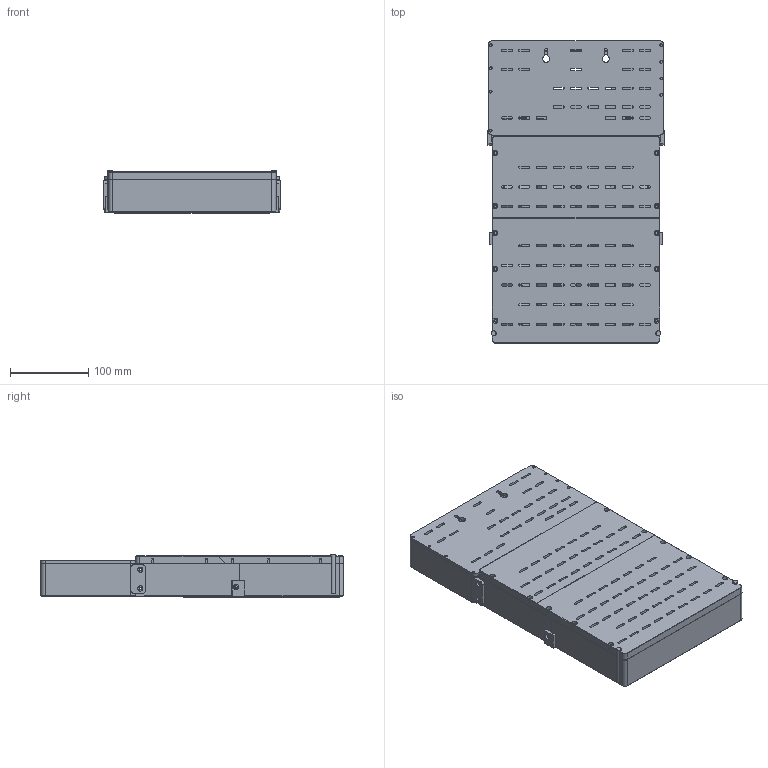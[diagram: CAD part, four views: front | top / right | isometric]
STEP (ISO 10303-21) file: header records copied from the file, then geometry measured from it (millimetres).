
FILE_DESCRIPTION(('Open CASCADE Model'),'2;1');
FILE_NAME('Open CASCADE Shape Model','2026-11-12T22:35:30',('Author'),( 'Open CASCADE'),'Open CASCADE STEP processor 7.9','Open CASCADE 7.9' ,'Unknown');
FILE_SCHEMA(('AUTOMOTIVE_DESIGN { 1 0 10303 214 1 1 1 1 }'));
Length unit declared in the file: millimetre
Products named in the file (11): PrecisionShot_V8_Enclosure_Assembled; T01_R12_hollow_post_optical_grid; T02_R3_optical_faceplate; T04_Lower_sensor_base; T05_Upper_sensor_base; T06_Lower_sensor_rear_cover; T07_Upper_sensor_rear_cover; T09_Main_board_enclosure; T10_Main_board_rear_lid; T11_Dual_regulator_cradle; T12_Display_spacer_frame
Assembly tree (10 placements, depth 2):
  PrecisionShot_V8_Enclosure_Assembled
    T01_R12_hollow_post_optical_grid
    T02_R3_optical_faceplate
    T04_Lower_sensor_base
    T05_Upper_sensor_base
    T06_Lower_sensor_rear_cover
    T07_Upper_sensor_rear_cover
    T09_Main_board_enclosure
    T10_Main_board_rear_lid
    T11_Dual_regulator_cradle
    T12_Display_spacer_frame
Bounding box: 224.6 x 386.3 x 54.2 mm (x, y, z)
Volume: 945879.9 mm3; surface area: 614852.3 mm2
Topology: 10 solids, 14 shells, 2766 faces, 7906 edges, 5272 vertices
Faces by surface type: plane 1386, cylinder 763, bspline 376, extrusion 153, sphere 64, cone 24
Full cylindrical faces by diameter (mm): 3.4 x32, 3.7 x32, 4.2 x8, 6 x2, 6.6 x8, 6.7 x16, 7 x4, 8 x2, 10.8 x4, 11 x4, 32 x16
Entity records: 231396 total; most frequent: CARTESIAN_POINT 80851, DIRECTION 25051, ORIENTED_EDGE 15812, PCURVE 15812, DEFINITIONAL_REPRESENTATION 15812, VECTOR 15513, LINE 15360, EDGE_CURVE 7906
